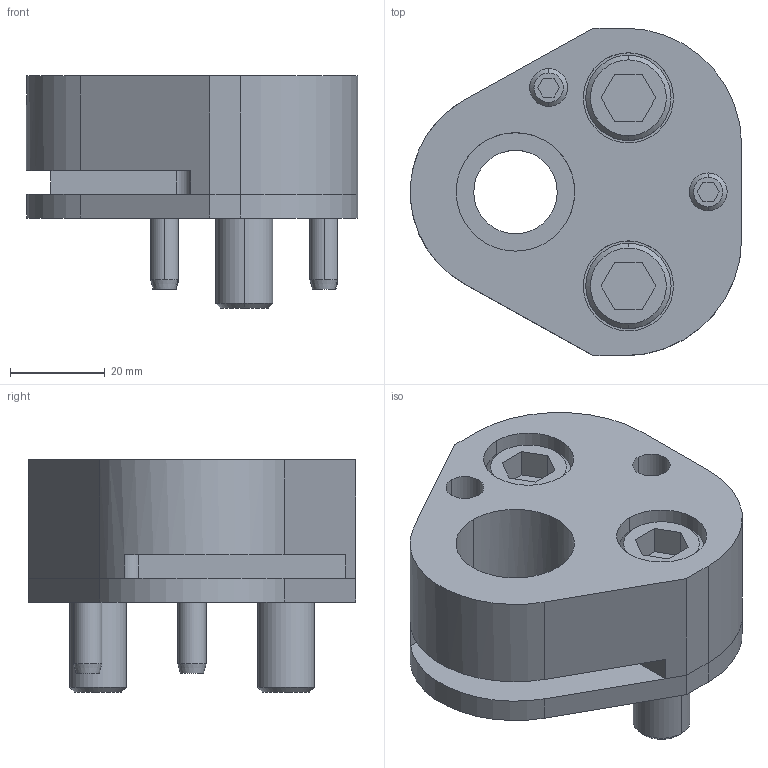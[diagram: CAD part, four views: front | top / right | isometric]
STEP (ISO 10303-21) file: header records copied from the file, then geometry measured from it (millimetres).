
FILE_DESCRIPTION(/* description */ (''),/* implementation_level */ '2;1');
FILE_NAME(/* name */ '3d_25crn-fd25_03142_r00.stp',/* time_stamp */ '2011-01-10T14:17:53+09:00',/* author */ ('MISUMI'),/* organization */ (''),/* preprocessor_version */ 'ST-DEVELOPER v11',/* originating_system */ 'UGS - NX 5.0',/* authorisation */ '');
FILE_SCHEMA (('CONFIG_CONTROL_DESIGN'));
Length unit declared in the file: millimetre
Products named in the file (1): 3d_25crn-fd25_03142_r00
Bounding box: 69.86 x 69.1 x 49 mm (x, y, z)
Volume: 93395.7 mm3; surface area: 32069.4 mm2
Topology: 8 solids, 8 shells, 156 faces, 359 edges, 232 vertices
Faces by surface type: plane 69, cylinder 61, cone 26
Entity records: 4592 total; most frequent: DIRECTION 816, CARTESIAN_POINT 805, ORIENTED_EDGE 718, EDGE_CURVE 359, AXIS2_PLACEMENT_3D 307, VERTEX_POINT 232, LINE 202, VECTOR 202
